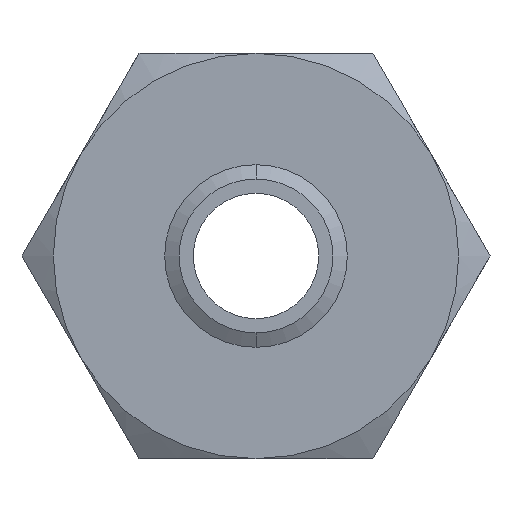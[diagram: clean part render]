
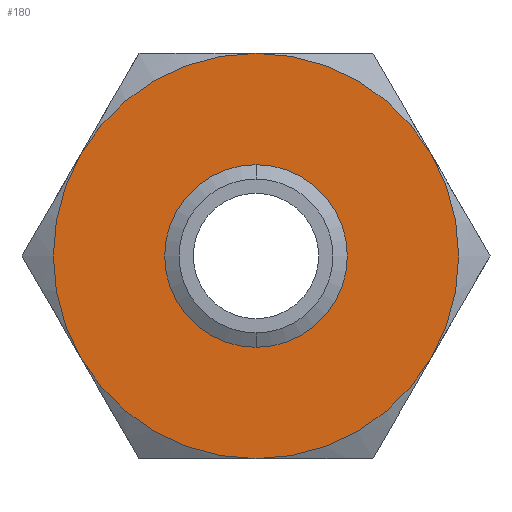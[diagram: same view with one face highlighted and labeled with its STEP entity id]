
A CAD part, front view. The second image highlights one B-rep face of the part: STEP entity #180.
In plain terms, the highlighted planar face has unit normal (0, -1, 0).
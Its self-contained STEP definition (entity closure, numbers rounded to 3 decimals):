
#148 = VERTEX_POINT ( 'NONE', #679 ) ;
#149 = VERTEX_POINT ( 'NONE', #2169 ) ;
#150 = EDGE_CURVE ( 'NONE', #148, #149, #2237, .T. ) ;
#151 = ORIENTED_EDGE ( 'NONE', *, *, #150, .F. ) ;
#159 = ORIENTED_EDGE ( 'NONE', *, *, #177, .F. ) ;
#160 = VERTEX_POINT ( 'NONE', #726 ) ;
#162 = VERTEX_POINT ( 'NONE', #720 ) ;
#164 = ORIENTED_EDGE ( 'NONE', *, *, #2426, .F. ) ;
#165 = EDGE_LOOP ( 'NONE', ( #151, #159, #178, #164, #2389, #196 ) ) ;
#177 = EDGE_CURVE ( 'NONE', #160, #148, #747, .T. ) ;
#178 = ORIENTED_EDGE ( 'NONE', *, *, #179, .F. ) ;
#179 = EDGE_CURVE ( 'NONE', #162, #160, #742, .T. ) ;
#180 = ADVANCED_FACE ( 'NONE', ( #801, #800 ), #799, .F. ) ;
#186 = VERTEX_POINT ( 'NONE', #786 ) ;
#190 = EDGE_CURVE ( 'NONE', #186, #2392, #783, .T. ) ;
#194 = EDGE_LOOP ( 'NONE', ( #198, #209 ) ) ;
#196 = ORIENTED_EDGE ( 'NONE', *, *, #210, .F. ) ;
#198 = ORIENTED_EDGE ( 'NONE', *, *, #2456, .F. ) ;
#209 = ORIENTED_EDGE ( 'NONE', *, *, #2428, .F. ) ;
#210 = EDGE_CURVE ( 'NONE', #149, #186, #808, .T. ) ;
#679 = CARTESIAN_POINT ( 'NONE',  ( 0., 0., 77.5 ) ) ;
#720 = CARTESIAN_POINT ( 'NONE',  ( -67.117, 0., -38.75 ) ) ;
#726 = CARTESIAN_POINT ( 'NONE',  ( -67.117, 0., 38.75 ) ) ;
#742 = CIRCLE ( 'NONE', #805, 77.5 ) ;
#743 = DIRECTION ( 'NONE',  ( 0., 0., 1. ) ) ;
#744 = DIRECTION ( 'NONE',  ( 0., 1., 0. ) ) ;
#745 = CARTESIAN_POINT ( 'NONE',  ( 0., 0., 0. ) ) ;
#746 = AXIS2_PLACEMENT_3D ( 'NONE', #745, #744, #743 ) ;
#747 = CIRCLE ( 'NONE', #746, 77.5 ) ;
#779 = DIRECTION ( 'NONE',  ( 0., 0., 1. ) ) ;
#780 = DIRECTION ( 'NONE',  ( 0., 1., 0. ) ) ;
#781 = CARTESIAN_POINT ( 'NONE',  ( 0., 0., 0. ) ) ;
#782 = AXIS2_PLACEMENT_3D ( 'NONE', #781, #780, #779 ) ;
#783 = CIRCLE ( 'NONE', #782, 77.5 ) ;
#786 = CARTESIAN_POINT ( 'NONE',  ( 67.117, 0., -38.75 ) ) ;
#794 = DIRECTION ( 'NONE',  ( 0., 0., 1. ) ) ;
#795 = DIRECTION ( 'NONE',  ( 0., 1., 0. ) ) ;
#796 = CARTESIAN_POINT ( 'NONE',  ( 44.745, 0., -77.5 ) ) ;
#798 = AXIS2_PLACEMENT_3D ( 'NONE', #796, #795, #794 ) ;
#799 = PLANE ( 'NONE',  #798 ) ;
#800 = FACE_BOUND ( 'NONE', #194, .T. ) ;
#801 = FACE_OUTER_BOUND ( 'NONE', #165, .T. ) ;
#802 = DIRECTION ( 'NONE',  ( 0., 0., 1. ) ) ;
#803 = DIRECTION ( 'NONE',  ( 0., 1., 0. ) ) ;
#804 = CARTESIAN_POINT ( 'NONE',  ( 0., 0., 0. ) ) ;
#805 = AXIS2_PLACEMENT_3D ( 'NONE', #804, #803, #802 ) ;
#806 = CARTESIAN_POINT ( 'NONE',  ( 0., 0., 0. ) ) ;
#807 = AXIS2_PLACEMENT_3D ( 'NONE', #806, #869, #868 ) ;
#808 = CIRCLE ( 'NONE', #807, 77.5 ) ;
#868 = DIRECTION ( 'NONE',  ( 0., 0., 1. ) ) ;
#869 = DIRECTION ( 'NONE',  ( 0., 1., 0. ) ) ;
#1679 = CARTESIAN_POINT ( 'NONE',  ( 0., 0., 0. ) ) ;
#1692 = DIRECTION ( 'NONE',  ( 0., -1., 0. ) ) ;
#1912 = CARTESIAN_POINT ( 'NONE',  ( 0., 0., -77.5 ) ) ;
#1920 = AXIS2_PLACEMENT_3D ( 'NONE', #1679, #1692, #2183 ) ;
#1921 = CIRCLE ( 'NONE', #1920, 29.426 ) ;
#1922 = DIRECTION ( 'NONE',  ( 0., 0., 1. ) ) ;
#1923 = DIRECTION ( 'NONE',  ( 0., 1., 0. ) ) ;
#1924 = CARTESIAN_POINT ( 'NONE',  ( 0., 0., 0. ) ) ;
#1925 = AXIS2_PLACEMENT_3D ( 'NONE', #1924, #1923, #1922 ) ;
#1926 = CIRCLE ( 'NONE', #1925, 77.5 ) ;
#1983 = DIRECTION ( 'NONE',  ( 0., 0., -1. ) ) ;
#1984 = DIRECTION ( 'NONE',  ( 0., -1., 0. ) ) ;
#1985 = CARTESIAN_POINT ( 'NONE',  ( 0., 0., 0. ) ) ;
#1986 = AXIS2_PLACEMENT_3D ( 'NONE', #1985, #1984, #1983 ) ;
#1987 = CIRCLE ( 'NONE', #1986, 29.426 ) ;
#1995 = CARTESIAN_POINT ( 'NONE',  ( 0., 0., 29.426 ) ) ;
#1999 = CARTESIAN_POINT ( 'NONE',  ( 0., 0., -29.426 ) ) ;
#2169 = CARTESIAN_POINT ( 'NONE',  ( 67.117, 0., 38.75 ) ) ;
#2183 = DIRECTION ( 'NONE',  ( 0., 0., -1. ) ) ;
#2237 = CIRCLE ( 'NONE', #2247, 77.5 ) ;
#2247 = AXIS2_PLACEMENT_3D ( 'NONE', #2249, #2248, #2250 ) ;
#2248 = DIRECTION ( 'NONE',  ( 0., 1., 0. ) ) ;
#2249 = CARTESIAN_POINT ( 'NONE',  ( 0., 0., 0. ) ) ;
#2250 = DIRECTION ( 'NONE',  ( 0., 0., 1. ) ) ;
#2389 = ORIENTED_EDGE ( 'NONE', *, *, #190, .F. ) ;
#2392 = VERTEX_POINT ( 'NONE', #1912 ) ;
#2426 = EDGE_CURVE ( 'NONE', #2392, #162, #1926, .T. ) ;
#2428 = EDGE_CURVE ( 'NONE', #2450, #2449, #1921, .T. ) ;
#2449 = VERTEX_POINT ( 'NONE', #1999 ) ;
#2450 = VERTEX_POINT ( 'NONE', #1995 ) ;
#2456 = EDGE_CURVE ( 'NONE', #2449, #2450, #1987, .T. ) ;
